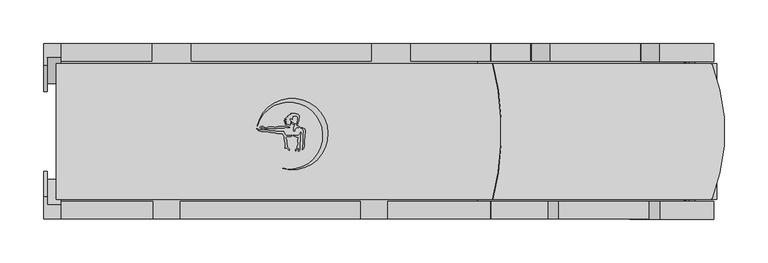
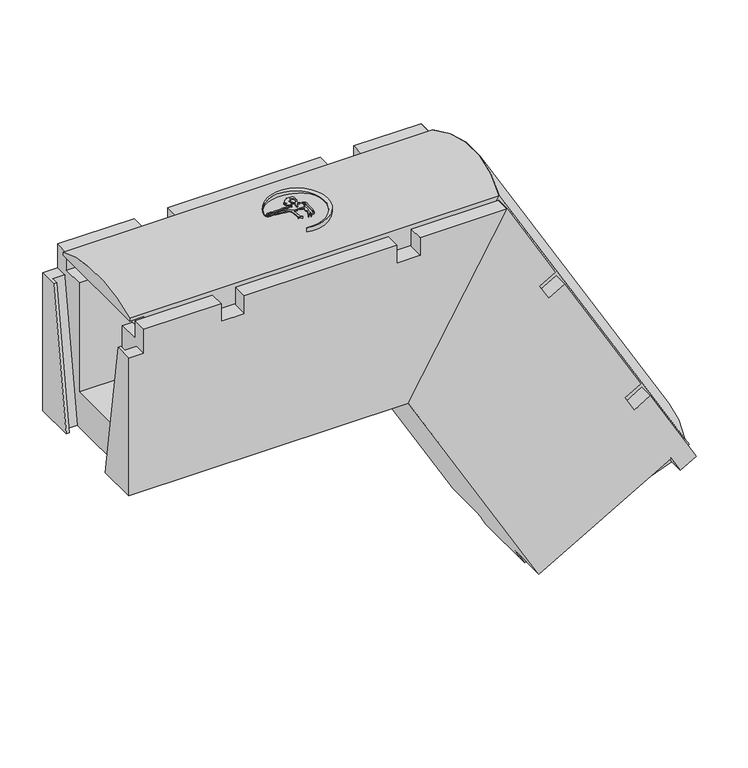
"""IFC4 building model written with IfcOpenShell, lengths in millimetres: cable carrier fitting geometry, Evotray type 1 vertical bend down : Evotray type 1 vertical bend down."""

from ifc_helpers import new_model, si_unit, point, frame, frame_2d, origin, place, context, project, spatial, polyline, circle_curve, ellipse_curve, trimmed, segment, composite_curve, outline, extrude, faceted_brep, source, transform, mapped, element, save
from ifc_brep_helpers import plane_surface, cylinder_surface, advanced_brep


def cable_carrier_fitting_3e882a55(model_context):
    return source(origin(), model_context, "Body", "SolidModel", [
        extrude(outline(composite_curve([segment(polyline([(-95.1987673, 5.907559), (-93.7730763, 5.0844359), (-94.4820077, 4.6751342), (-97.0469375, 4.6751342), (-99.5064308, 2.2156409), (-99.5064308, 0.6319729), (-100.5639447, 0.3486129), (-100.8953119, 1.5852919), (-100.5730905, 2.7878385), (-100.5730905, 5.0146536), (-99.1065498, 6.4811943), (-99.5064308, 7.1738084), (-100.5730905, 7.7896447), (-101.4313624, 8.2851682), (-102.4244859, 9.2782918), (-102.4244859, 10.5283487), (-101.6366917, 10.0735155), (-100.5730905, 9.0099142), (-99.5064308, 8.394078), (-97.1936661, 8.394078), (-96.5617675, 9.0259766), (-96.5617675, 10.6343813), (-96.1559104, 11.3373462), (-95.9163405, 12.2314336), (-95.9163405, 16.3268685), (-96.5617675, 16.9722955), (-100.5730905, 17.3232408), (-101.3212546, 16.8912881), (-101.7531031, 16.1433045), (-101.9754965, 15.313321), (-102.2482129, 13.7666695), (-102.8042347, 14.3226912), (-103.3698905, 14.8883471), (-104.3304254, 14.8883471), (-104.8048648, 14.0665939), (-104.8048648, 13.2416885), (-104.4028177, 12.5453225), (-103.675123, 11.8176278), (-104.0717623, 10.3373496), (-104.4092623, 9.0777826), (-104.1064549, 7.3604762), (-104.907248, 7.2192748), (-106.6376932, 7.6829462), (-107.8844025, 8.2642963), (-108.6376597, 8.6155459), (-110.2371082, 8.33352), (-109.7695498, 9.1433549), (-108.1127288, 9.7463885)]), True, "CONTINUOUS"), segment(trimmed(circle_curve(frame_2d((-108.6788564, 9.4744491)), 0.6280537), [point((-108.1127288, 9.7463885))], [point((-108.8344386, 10.0829273))], True, "CARTESIAN"), True, "CONTINUOUS"), segment(polyline([(-108.8344386, 10.0829273), (-110.7814537, 10.0829273), (-110.2232755, 10.6411054), (-109.3724958, 10.9507639), (-108.5540563, 11.2486515)]), True, "CONTINUOUS"), segment(trimmed(circle_curve(frame_2d((-109.2923812, 11.2486515)), 0.7383249), [point((-108.5540563, 11.2486515))], [point((-109.2923812, 11.9869764))], True, "CARTESIAN"), True, "CONTINUOUS"), segment(polyline([(-109.2923812, 11.9869764), (-111.0001288, 11.9869764), (-111.3916504, 12.6651117), (-109.5730583, 12.9857785), (-108.2767203, 13.457607), (-108.897473, 14.0783597), (-110.8606925, 14.0783597), (-110.30811, 14.6309421), (-109.2782773, 15.2255163), (-108.603553, 15.9002407), (-107.8807357, 16.3175594), (-106.9057237, 16.8804829)]), True, "CONTINUOUS"), segment(trimmed(circle_curve(frame_2d((-107.1167091, 17.2459203)), 0.4219708), [point((-106.9057237, 16.8804829))], [point((-107.3276945, 17.6113577))], True, "CARTESIAN"), True, "CONTINUOUS"), segment(polyline([(-107.3276945, 17.6113577), (-106.7102978, 18.2287544), (-105.4076278, 18.7028875), (-104.4125713, 19.2773836), (-103.2810347, 19.4769041), (-103.6348604, 20.4490324), (-98.6348604, 20.4490324), (-97.6206866, 19.9761154), (-96.4988316, 19.6755153), (-95.4843855, 19.0898245), (-94.3757091, 17.9811481), (-94.3757091, 15.4151328), (-94.8646262, 14.5683035), (-94.8646262, 11.8362675), (-95.3536612, 10.7875287), (-95.760463, 10.0829273), (-95.760463, 8.2341629), (-96.5617675, 7.7715296), (-97.3950459, 7.6246001)]), True, "CONTINUOUS"), segment(trimmed(circle_curve(frame_2d((-96.3420944, 7.3424626)), 1.0900956), [point((-97.3950459, 7.6246001))], [point((-96.6242319, 6.2895111))], True, "CARTESIAN"), True, "CONTINUOUS"), segment(polyline([(-96.6242319, 6.2895111), (-95.1987673, 5.907559)]), True, "CONTINUOUS")], self_intersect=False)), frame((0.0, 0.0, 229.0645802), z_axis=(0.0, 0.0, 1.0), x_axis=(1.0, 0.0, 0.0)), (0.0, 0.0, 1.0), 22.5),
        extrude(outline(polyline([(-90.6420581, 3.0525563), (-92.5647021, 4.1625953), (-91.375462, 4.4812513), (-90.0006066, 3.9808448), (-87.8744575, 2.753312), (-87.462808, 1.2170154), (-87.462808, -1.5561738), (-87.8811889, -3.9289297), (-88.2073261, -13.2682758), (-88.2073261, -16.1231727), (-88.766974, -19.297094), (-89.9259981, -20.4561181), (-90.8234867, -20.4561181), (-90.1486125, -18.6019165), (-89.8396569, -16.8497423), (-89.3251997, -13.9321102), (-89.3251997, -2.6926455), (-88.883565, -0.1880111), (-89.4260419, 1.8365401), (-90.6420581, 3.0525563)])), frame((0.0, 0.0, 229.0645802), z_axis=(0.0, 0.0, 1.0), x_axis=(1.0, 0.0, 0.0)), (0.0, 0.0, 1.0), 22.5),
        extrude(outline(composite_curve([segment(polyline([(-98.070307, -4.5554644), (-96.0881056, -4.5554644), (-94.6198413, -4.2965698), (-93.3145593, -2.9912878), (-92.1344504, -0.4605362), (-91.6534984, -1.7819409), (-92.2762062, -3.117342), (-92.9468137, -4.5554644), (-92.9468137, -10.5136603), (-93.3751928, -12.943119), (-93.3751928, -21.4242609), (-94.8238515, -22.8729196), (-95.3965887, -22.3001824), (-94.7178687, -20.5578122), (-94.4597233, -19.0937972)]), True, "CONTINUOUS"), segment(trimmed(circle_curve(frame_2d((-94.8743713, -19.0937972)), 0.414648), [point((-94.4597233, -19.0937972))], [point((-95.2890194, -19.0937972))], True, "CARTESIAN"), True, "CONTINUOUS"), segment(polyline([(-95.2890194, -19.0937972), (-96.0547081, -19.8594859), (-97.3215546, -21.3692548), (-97.9770637, -22.0247639), (-98.7693849, -21.6552984), (-96.605165, -18.4467105), (-96.2992553, -16.7118106), (-95.4571975, -14.9060116), (-95.19999, -13.4473154), (-95.9884987, -12.0815782), (-95.9884987, -9.315031), (-94.6653502, -7.4454743)]), True, "CONTINUOUS"), segment(trimmed(circle_curve(frame_2d((-95.0024552, -7.2068937)), 0.4129897), [point((-94.6653502, -7.4454743))], [point((-95.2410358, -6.8697887))], True, "CARTESIAN"), True, "CONTINUOUS"), segment(polyline([(-95.2410358, -6.8697887), (-97.2448508, -6.516462), (-98.6887473, -5.843162), (-100.508748, -4.9944818), (-100.508748, -4.1255015), (-98.070307, -4.5554644)]), True, "CONTINUOUS")], self_intersect=False)), frame((0.0, 0.0, 229.0645802), z_axis=(0.0, 0.0, 1.0), x_axis=(1.0, 0.0, 0.0)), (0.0, 0.0, 1.0), 22.5),
        extrude(outline(composite_curve([segment(polyline([(-140.4819029, 2.2537302), (-138.7462291, 1.4443722), (-134.5597552, 1.4443722), (-133.4890341, 1.731271), (-132.1624965, 1.731271), (-130.4413877, 1.4443722), (-128.4350656, 0.9067798), (-127.2818775, 0.597784), (-121.5899708, 0.597784), (-118.9734749, 0.1616293), (-117.6459123, -0.19409), (-112.03167, -0.19409)]), True, "CONTINUOUS"), segment(trimmed(circle_curve(frame_2d((-103.1781038, 2.7115165)), 9.3181642), [point((-112.03167, -0.19409))], [point((-108.6774022, -4.8108435))], True, "CARTESIAN"), True, "CONTINUOUS"), segment(polyline([(-108.6774022, -4.8108435), (-105.6256174, -4.8108435), (-103.5910388, -4.632841), (-102.4520349, -4.1017147), (-102.7095548, -5.0627921), (-103.6536491, -5.6078652), (-104.612336, -5.9567987), (-107.847041, -5.8438403), (-109.0357356, -6.2764898), (-109.44473, -7.153581), (-109.3696494, -8.0117562), (-108.8907652, -8.8412079), (-108.1701597, -9.5618134), (-108.1701597, -11.3180259), (-108.53546, -12.3216801), (-108.3911934, -13.970655), (-107.8861011, -15.8556852), (-107.737982, -17.5486944), (-105.3666469, -20.2766033), (-105.5753239, -21.4600691), (-108.1701597, -18.8652332), (-109.1329913, -19.1232231), (-110.5361675, -18.8758053), (-110.2606072, -18.1187094), (-110.2606072, -15.8446539), (-110.0850033, -14.8487551), (-110.2606072, -12.8415943), (-110.6362696, -11.8094702), (-110.6362696, -9.9842873), (-111.0826053, -9.0271173), (-111.0826053, -6.6493678), (-111.3310455, -5.7221762), (-111.7830159, -4.9393406), (-112.2317276, -4.1621491), (-112.84617, -3.5477067), (-113.2800213, -2.6173096), (-116.8809595, -2.4915621), (-119.2251115, -2.1008055), (-121.2577048, -1.5561738), (-124.5993244, -1.2049554), (-126.6789374, -1.2049554), (-128.021172, -0.8453047), (-129.5447671, -0.4370587), (-130.8880204, 0.1893106), (-131.8824091, 0.1893106), (-134.5338495, 0.1893106), (-135.6460936, -0.1087143), (-137.5093755, 0.0871245), (-138.9984504, 0.3353447), (-140.6717579, 1.1156208), (-141.6476843, 2.0915471), (-142.2867674, 2.7306302), (-142.2867674, 3.5175099), (-140.4819029, 2.2537302)]), True, "CONTINUOUS")], self_intersect=False)), frame((0.0, 0.0, 229.0645802), z_axis=(0.0, 0.0, 1.0), x_axis=(1.0, 0.0, 0.0)), (0.0, 0.0, 1.0), 22.5),
        extrude(outline(composite_curve([segment(polyline([(-137.9796703, 3.7977023), (-136.956356, 3.2068915), (-138.6840165, 3.7265624), (-139.014163, 4.6441261), (-138.1758386, 5.4824506), (-135.30302, 5.4824506), (-134.318583, 5.0847122), (-133.2280942, 4.6441261), (-132.4299007, 4.1832889), (-131.1696706, 4.1832889), (-130.3486455, 4.4787), (-129.4633932, 4.9898007), (-123.0496883, 4.9898007), (-122.1941137, 4.6441261), (-121.1237116, 4.6441261), (-120.1629915, 4.9898007), (-118.9838348, 4.9898007), (-118.2654957, 5.4045339), (-112.8528405, 5.4045339), (-112.0925598, 5.6780888), (-110.8504018, 5.6780888), (-110.2746333, 6.2538574), (-108.3170698, 6.2538574), (-107.0290688, 5.7334711), (-106.0171524, 5.1492409), (-105.2127113, 4.8242256)]), True, "CONTINUOUS"), segment(trimmed(circle_curve(frame_2d((-105.6200436, 4.6596527)), 0.4393221), [point((-105.2127113, 4.8242256))], [point((-105.7846166, 4.2523203))], False, "CARTESIAN"), True, "CONTINUOUS"), segment(polyline([(-105.7846166, 4.2523203), (-106.8003453, 4.6627013), (-108.112003, 4.6627013), (-109.382433, 4.8867124), (-110.1944574, 4.5945398), (-111.3374314, 4.1832889), (-114.6816293, 4.1832889), (-115.4727027, 3.7265624), (-119.0400229, 3.7265624), (-119.9228853, 3.2168416), (-129.9228853, 3.2168416), (-132.5335493, 2.9884381), (-136.222077, 4.4787), (-138.3728446, 4.4787), (-137.9796703, 3.7977023)]), True, "CONTINUOUS")], self_intersect=False)), frame((0.0, 0.0, 229.0645802), z_axis=(0.0, 0.0, 1.0), x_axis=(1.0, 0.0, 0.0)), (0.0, 0.0, 1.0), 22.5),
        extrude(outline(composite_curve([segment(trimmed(circle_curve(frame_2d((-105.3994103, -4.8721323)), 38.3616107), [point((-112.8072471, -42.511701))], [point((-142.1109456, 6.2578432))], True, "CARTESIAN"), True, "CONTINUOUS"), segment(trimmed(circle_curve(frame_2d((-102.2700096, -2.9917986)), 40.900563), [point((-142.1109456, 6.2578432))], [point((-112.8072471, -42.511701))], False, "CARTESIAN"), True, "CONTINUOUS")], self_intersect=False)), frame((0.0, 0.0, 229.0645802), z_axis=(0.0, 0.0, 1.0), x_axis=(1.0, 0.0, 0.0)), (0.0, 0.0, 1.0), 22.5),
        advanced_brep(
        [(109.4418876, -77.5, 205.0), (356.6628314, -77.5, -223.1992354), (381.7567344, -77.5, -208.7112637), (375.7567344, -77.5, -198.3189589), (126.1850454, -77.5, 234.0), (356.6628314, 77.5, -223.1992354), (109.4418876, 77.5, 205.0), (126.1850454, 77.5, 234.0), (375.7775681, 77.5, -198.3069305), (381.7567344, 77.5, -208.7112637)],
        [
            (0, 1),
            (1, 2),
            (2, 3),
            (3, 4),
            (4, 0),
            (5, 6),
            (6, 7),
            (7, 8),
            (8, 9),
            (9, 5),
            (1, 5),
            (9, 2),
            (6, 0),
            (4, 7, ellipse_curve(frame((28.9175319, 0.0, 65.5277247), z_axis=(-0.8660254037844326, 0.0, 0.5000000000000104), x_axis=(-0.5000000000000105, 0.0, -0.8660254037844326)), 214.1312916, 185.4431383)),
            (8, 3),
            (8, 3, circle_curve(frame((229.8762979, 0.0, -282.5430682), z_axis=(0.4999999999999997, 0.0, -0.8660254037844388), x_axis=(0.0, -1.0, 0.0)), 185.4431383)),
        ],
        [
            plane_surface(frame((356.6628314, -77.5, -223.1992354), z_axis=(0.0, -1.0000000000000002, 0.0), x_axis=(0.8660254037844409, 0.0, 0.49999999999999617))),
            plane_surface(frame((356.6628314, 77.5, -223.1992354), z_axis=(0.0, 1.0000000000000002, 0.0), x_axis=(-0.8660254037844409, 0.0, -0.49999999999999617))),
            plane_surface(frame((356.6628314, -77.5, -223.1992354), z_axis=(0.49999999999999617, 0.0, -0.8660254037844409), x_axis=(0.0, 1.0, 0.0))),
            plane_surface(frame((136.0, -77.5, 251.0), z_axis=(-0.8660254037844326, 0.0, 0.5000000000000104), x_axis=(0.0, 1.0, 0.0))),
            plane_surface(frame((109.4418876, -77.5, 205.0), z_axis=(-0.8660254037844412, 0.0, -0.4999999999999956), x_axis=(0.0, 1.0, 0.0))),
            plane_surface(frame((381.7567344, -77.5, -208.7112637), z_axis=(0.8660254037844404, 0.0, 0.49999999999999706), x_axis=(-0.49999999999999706, 0.0, 0.8660254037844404))),
            plane_surface(frame((375.7567344, -77.5, -198.3189589), z_axis=(0.4999999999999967, 0.0, -0.8660254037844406), x_axis=(0.8660254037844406, 0.0, 0.4999999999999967))),
            cylinder_surface(frame((-17.984174, 0.0, 146.7638624), z_axis=(0.4999999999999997, 0.0, -0.8660254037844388), x_axis=(0.0, -1.0, 0.0)), 185.4431383),
        ],
        [
            (0, [[1, 2, 3, 4, 5]]),
            (1, [[6, 7, 8, 9, 10]]),
            (2, [[11, -10, 12, -2]]),
            (3, [[13, -5, 14, -7]]),
            (4, [[-1, -13, -6, -11]]),
            (5, [[15, -3, -12, -9]]),
            (6, [[-15, 16]]),
            (7, [[-4, -16, -8, -14]]),
        ],
    ),
        advanced_brep(
        [(-351.0, -77.5, 205.0), (109.4418876, -77.5, 205.0), (126.1850454, -77.5, 234.0), (-371.0, -77.5, 234.0), (-371.0, -77.5, 230.0), (-351.0, -77.5, 230.0), (109.4418876, 77.5, 205.0), (-351.0, 77.5, 205.0), (-351.0, 77.5, 230.0), (-371.0, 77.5, 230.0), (-371.0, 77.5, 234.0), (126.1850454, 77.5, 234.0)],
        [
            (0, 1),
            (1, 2),
            (2, 3),
            (3, 4),
            (4, 5),
            (5, 0),
            (6, 7),
            (7, 8),
            (8, 9),
            (9, 10),
            (10, 11),
            (11, 6),
            (9, 4),
            (3, 10, circle_curve(frame((-371.0, 0.0, 65.5277247), z_axis=(-1.0, 0.0, 0.0), x_axis=(0.0, -1.0, 0.0)), 185.4431383)),
            (6, 1),
            (0, 7),
            (11, 2, ellipse_curve(frame((28.9175319, 0.0, 65.5277247), z_axis=(0.8660254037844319, 0.0, -0.5000000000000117), x_axis=(0.5000000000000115, 0.0, 0.8660254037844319)), 214.1312916, 185.4431383)),
            (8, 5),
        ],
        [
            plane_surface(frame((-371.0, -77.5, 205.0), z_axis=(0.0, -1.0, 0.0), x_axis=(0.0, 0.0, -1.0))),
            plane_surface(frame((-371.0, 77.5, 205.0), z_axis=(0.0, 1.0, 0.0), x_axis=(0.0, 0.0, 1.0))),
            plane_surface(frame((-371.0, -77.5, 251.0), z_axis=(-1.0, 0.0, 0.0), x_axis=(0.0, 1.0, 0.0))),
            plane_surface(frame((-371.0, -77.5, 205.0), z_axis=(0.0, 0.0, -1.0), x_axis=(0.0, 1.0, 0.0))),
            plane_surface(frame((109.4418876, -77.5, 205.0), z_axis=(0.8660254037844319, 0.0, -0.5000000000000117), x_axis=(0.0, 1.0, 0.0))),
            plane_surface(frame((-371.0, 77.5, 230.0), z_axis=(0.0, 0.0, -1.0), x_axis=(-1.0, 0.0, 0.0))),
            plane_surface(frame((-351.0, -77.5, 230.0), z_axis=(-1.0, 0.0, 0.0), x_axis=(0.0, 0.0, -1.0))),
            cylinder_surface(frame((-371.0, 0.0, 65.5277247), z_axis=(1.0, 0.0, 0.0), x_axis=(0.0, -1.0, 0.0)), 185.4431383),
        ],
        [
            (0, [[1, 2, 3, 4, 5, 6]]),
            (1, [[7, 8, 9, 10, 11, 12]]),
            (2, [[13, -4, 14, -10]]),
            (3, [[15, -1, 16, -7]]),
            (4, [[-15, -12, 17, -2]]),
            (5, [[18, -5, -13, -9]]),
            (6, [[-18, -8, -16, -6]]),
            (7, [[-3, -17, -11, -14]]),
        ],
    ),
        faceted_brep([(123.8756443, -100.0, 230.0), (-8.9149176, -100.0, 0.0), (166.6276237, -100.0, -304.0486003), (344.1628314, -100.0, -201.5486003), (356.6628314, -100.0, -223.1992354), (378.3134665, -100.0, -210.6992354), (316.3134665, -100.0, -103.3120853), (294.6628314, -100.0, -115.8120853), (282.1628314, -100.0, -94.1614502), (303.8134665, -100.0, -81.6614502), (201.3134665, -100.0, 95.8737576), (179.6628314, -100.0, 83.3737576), (167.1628314, -100.0, 105.0243927), (188.8134665, -100.0, 117.5243927), (-8.9149176, 100.0, 0.0), (123.8756443, 100.0, 230.0), (169.3134665, 100.0, 151.2993834), (147.6628314, 100.0, 138.7993834), (170.1628314, 100.0, 99.8282402), (191.8134665, 100.0, 112.3282402), (294.3134665, 100.0, -65.2069675), (272.6628314, 100.0, -77.7069675), (295.1628314, 100.0, -116.6781107), (316.8134665, 100.0, -104.1781107), (378.3134665, 100.0, -210.6992354), (356.6628314, 100.0, -223.1992354), (344.1628314, 100.0, -201.5486003), (166.6276237, 100.0, -304.0486003), (356.6628314, -50.0, -223.1992354), (356.6628314, -80.0, -223.1992354), (179.1276237, -45.4, -325.6992354), (179.1276237, 45.4, -325.6992354), (356.6628314, 80.0, -223.1992354), (356.6628314, 50.0, -223.1992354), (222.4288938, 50.0, -300.6992354), (222.4288938, -50.0, -300.6992354), (378.3134665, -80.0, -210.6992354), (378.3134665, 80.0, -210.6992354), (303.8134665, -80.0, -81.6614502), (201.3134665, -80.0, 95.8737576), (191.8134665, 80.0, 112.3282402), (294.3134665, 80.0, -65.2069675), (316.3134665, -80.0, -103.3120853), (316.8134665, 80.0, -104.1781107), (123.8756443, -80.0, 230.0), (188.8134665, -80.0, 117.5243927), (123.8756443, 80.0, 230.0), (169.3134665, 80.0, 151.2993834), (109.4418876, -80.0, 205.0), (109.4418876, -50.0, 205.0), (19.9525959, -50.0, 50.0), (19.9525959, 50.0, 50.0), (109.4418876, 50.0, 205.0), (109.4418876, 80.0, 205.0), (166.6276237, 43.0, -304.0486003), (172.6276237, 43.0, -314.4409051), (172.6276237, 45.4, -314.4409051), (172.6276237, -45.4, -314.4409051), (172.6276237, -43.0, -314.4409051), (166.6276237, -43.0, -304.0486003), (350.1628314, -80.0, -211.9409051), (344.1628314, -80.0, -201.5486003), (294.6628314, -80.0, -115.8120853), (282.1628314, -80.0, -94.1614502), (179.6628314, -80.0, 83.3737576), (167.1628314, -80.0, 105.0243927), (295.1628314, 80.0, -116.6781107), (344.1628314, 80.0, -201.5486003), (350.1628314, 80.0, -211.9409051), (170.1628314, 80.0, 99.8282402), (272.6628314, 80.0, -77.7069675), (147.6628314, 80.0, 138.7993834), (344.1628314, -77.6, -201.5486003), (350.1628314, -77.6, -211.9409051), (350.1628314, 77.6, -211.9409051), (344.1628314, 77.6, -201.5486003)], [[[0, 1, 2, 3, 4, 5, 6, 7, 8, 9, 10, 11, 12, 13]], [[14, 15, 16, 17, 18, 19, 20, 21, 22, 23, 24, 25, 26, 27]], [[28, 29, 30, 31, 32, 33, 34, 35]], [[36, 5, 4, 29]], [[24, 37, 32, 25]], [[10, 9, 38, 39]], [[20, 19, 40, 41]], [[5, 36, 42, 6]], [[37, 24, 23, 43]], [[44, 0, 13, 45]], [[15, 46, 47, 16]], [[1, 0, 44, 48, 49, 50, 51, 52, 53, 46, 15, 14]], [[1, 14, 27, 54, 55, 56, 31, 30, 57, 58, 59, 2]], [[36, 29, 60, 61, 62, 42]], [[39, 38, 63, 64]], [[48, 44, 45, 65]], [[32, 37, 43, 66, 67, 68]], [[41, 40, 69, 70]], [[46, 53, 71, 47]], [[49, 48, 65, 12, 11, 64, 63, 8, 7, 62, 61, 72, 73, 60, 29, 28]], [[53, 52, 33, 32, 68, 74, 75, 67, 66, 22, 21, 70, 69, 18, 17, 71]], [[35, 50, 49, 28]], [[51, 34, 33, 52]], [[50, 35, 34, 51]], [[60, 29, 4, 3, 61]], [[29, 60, 57, 30]], [[32, 68, 67, 26, 25]], [[68, 32, 31, 56]], [[58, 73, 72, 59]], [[59, 72, 61, 3, 2]], [[73, 58, 57, 60]], [[54, 75, 74, 55]], [[75, 54, 27, 26, 67]], [[55, 74, 68, 56]], [[70, 21, 20, 41]], [[22, 66, 43, 23]], [[62, 7, 6, 42]], [[8, 63, 38, 9]], [[71, 17, 16, 47]], [[18, 69, 40, 19]], [[64, 11, 10, 39]], [[12, 65, 45, 13]]]),
        faceted_brep([(-385.0, -100.0, 0.0), (-8.9149176, -100.0, 0.0), (123.8756443, -100.0, 230.0), (6.6963481, -100.0, 230.0), (6.6963481, -100.0, 205.0), (-24.6518259, -100.0, 205.0), (-24.6518259, -100.0, 230.0), (-229.6518259, -100.0, 230.0), (-229.6518259, -100.0, 205.0), (-261.0, -100.0, 205.0), (-261.0, -100.0, 230.0), (-365.0130369, -100.0, 230.0), (-365.0130369, -100.0, 196.0), (-385.0, -100.0, 196.0), (123.8756443, 100.0, 230.0), (-8.9149176, 100.0, 0.0), (-385.0, 100.0, 0.0), (-385.0, 100.0, 196.0), (-365.0130369, 100.0, 196.0), (-365.0130369, 100.0, 230.0), (-262.0, 100.0, 230.0), (-262.0, 100.0, 205.0), (-217.0, 100.0, 205.0), (-217.0, 100.0, 230.0), (-12.0, 100.0, 230.0), (-12.0, 100.0, 205.0), (33.0, 100.0, 205.0), (33.0, 100.0, 230.0), (-24.6518259, -80.0, 230.0), (-229.6518259, -80.0, 230.0), (-217.0, 80.0, 230.0), (-12.0, 80.0, 230.0), (123.8756443, -80.0, 230.0), (6.6963481, -80.0, 230.0), (123.8756443, 80.0, 230.0), (33.0, 80.0, 230.0), (-365.0130369, -80.0, 230.0), (-261.0, -80.0, 230.0), (-365.0130369, 80.0, 230.0), (-262.0, 80.0, 230.0), (-385.0, -45.45, 0.0), (-385.0, -74.8926087, 196.0), (-385.0, 45.45, 0.0), (-385.0, 74.8926087, 196.0), (-381.0, -45.45, 0.0), (-381.0, -54.6, 0.0), (-365.0, -54.6, 0.0), (-365.0, 54.6, 0.0), (-381.0, 54.6, 0.0), (-381.0, 45.45, 0.0), (109.4418876, 80.0, 205.0), (109.4418876, 50.0, 205.0), (19.9525959, 50.0, 50.0), (19.9525959, -50.0, 50.0), (109.4418876, -50.0, 205.0), (109.4418876, -80.0, 205.0), (-381.0, 74.8926087, 196.0), (-381.0, -74.8926087, 196.0), (-365.0, 84.0426087, 196.0), (-381.0, 84.0426087, 196.0), (-381.0, -84.0426087, 196.0), (-365.0, -84.0426087, 196.0), (-365.0, -80.0, 205.0), (-365.0, -77.5, 205.0), (-365.0, -50.0, 205.0), (-365.0, -50.0, 50.0), (-365.0, 50.0, 50.0), (-365.0, 50.0, 205.0), (-365.0, 77.5, 205.0), (-365.0, 80.0, 205.0), (-24.6518259, -80.0, 205.0), (-229.6518259, -80.0, 205.0), (6.6963481, -80.0, 205.0), (-261.0, -80.0, 205.0), (-217.0, 80.0, 205.0), (-12.0, 80.0, 205.0), (33.0, 80.0, 205.0), (-262.0, 80.0, 205.0), (-351.0, 50.0, 205.0), (-351.0, -50.0, 205.0)], [[[0, 1, 2, 3, 4, 5, 6, 7, 8, 9, 10, 11, 12, 13]], [[14, 15, 16, 17, 18, 19, 20, 21, 22, 23, 24, 25, 26, 27]], [[7, 6, 28, 29]], [[24, 23, 30, 31]], [[2, 32, 33, 3]], [[34, 14, 27, 35]], [[36, 11, 10, 37]], [[19, 38, 39, 20]], [[40, 0, 13, 41]], [[16, 42, 43, 17]], [[1, 0, 40, 44, 45, 46, 47, 48, 49, 42, 16, 15]], [[2, 1, 15, 14, 34, 50, 51, 52, 53, 54, 55, 32]], [[42, 49, 56, 43]], [[44, 40, 41, 57]], [[48, 47, 58, 59]], [[45, 44, 57, 60]], [[49, 48, 59, 56]], [[46, 45, 60, 61]], [[47, 46, 61, 12, 11, 36, 62, 63, 64, 65, 66, 67, 68, 69, 38, 19, 18, 58]], [[12, 61, 60, 57, 41, 13]], [[58, 18, 17, 43, 56, 59]], [[29, 28, 70, 71]], [[32, 55, 72, 33]], [[62, 36, 37, 73]], [[31, 30, 74, 75]], [[50, 34, 35, 76]], [[38, 69, 77, 39]], [[51, 50, 76, 26, 25, 75, 74, 22, 21, 77, 69, 68, 67, 78]], [[55, 54, 79, 64, 63, 62, 73, 9, 8, 71, 70, 5, 4, 72]], [[53, 65, 64, 79, 54]], [[66, 52, 51, 78, 67]], [[65, 53, 52, 66]], [[77, 21, 20, 39]], [[22, 74, 30, 23]], [[9, 73, 37, 10]], [[71, 8, 7, 29]], [[75, 25, 24, 31]], [[26, 76, 35, 27]], [[5, 70, 28, 6]], [[72, 4, 3, 33]]]),
    ])


if __name__ == "__main__":
    model = new_model("IFC4")
    model_context = context("Model", 3, world=origin())
    ifc_project = project(units=[si_unit("LENGTHUNIT", "METRE", prefix="MILLI")], contexts=[model_context])
    site = spatial("IfcSite", under=ifc_project)
    building = spatial("IfcBuilding", under=site)
    placement = place(None, origin())
    cable_carrier_fitting_shape = cable_carrier_fitting_3e882a55(model_context)
    element("IfcCableCarrierFitting", 1, ObjectType="Evotray type 1 vertical bend down : Evotray type 1 vertical bend down", at=placement, inside=building, context=model_context, shape_type="MappedRepresentation", body=[
        mapped(cable_carrier_fitting_shape, transform((0.0, 0.0, 0.0), x_axis=(1.0, 0.0, 0.0), y_axis=(0.0, 1.0, 0.0), z_axis=(0.0, 0.0, 1.0))),
    ])
    save(model, "model.ifc")
